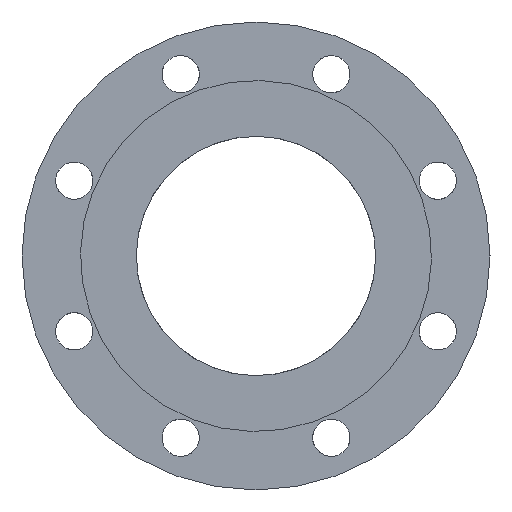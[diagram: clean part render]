
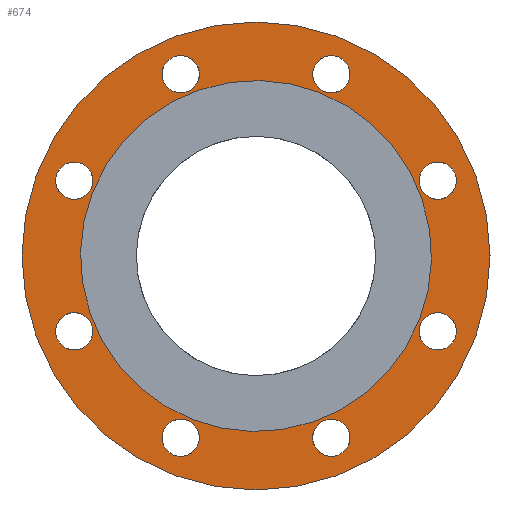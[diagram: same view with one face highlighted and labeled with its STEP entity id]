
A CAD part, front view. The second image highlights one B-rep face of the part: STEP entity #674.
In plain terms, the highlighted planar face has unit normal (0, -1, 0).
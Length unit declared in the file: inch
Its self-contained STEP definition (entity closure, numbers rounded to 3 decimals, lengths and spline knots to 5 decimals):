
#23=PLANE('',#762);
#76=FACE_BOUND('',#227,.T.);
#77=FACE_BOUND('',#228,.T.);
#78=FACE_BOUND('',#229,.T.);
#79=FACE_BOUND('',#230,.T.);
#80=FACE_BOUND('',#231,.T.);
#81=FACE_BOUND('',#232,.T.);
#82=FACE_BOUND('',#233,.T.);
#83=FACE_BOUND('',#234,.T.);
#84=FACE_BOUND('',#235,.T.);
#135=FACE_OUTER_BOUND('',#226,.T.);
#226=EDGE_LOOP('',(#531));
#227=EDGE_LOOP('',(#532));
#228=EDGE_LOOP('',(#533));
#229=EDGE_LOOP('',(#534));
#230=EDGE_LOOP('',(#535));
#231=EDGE_LOOP('',(#536));
#232=EDGE_LOOP('',(#537));
#233=EDGE_LOOP('',(#538));
#234=EDGE_LOOP('',(#539));
#235=EDGE_LOOP('',(#540));
#304=CIRCLE('',#756,4.125);
#307=CIRCLE('',#763,5.5);
#308=CIRCLE('',#764,0.4375);
#309=CIRCLE('',#765,0.4375);
#310=CIRCLE('',#766,0.4375);
#311=CIRCLE('',#767,0.4375);
#312=CIRCLE('',#768,0.4375);
#313=CIRCLE('',#769,0.4375);
#314=CIRCLE('',#770,0.4375);
#315=CIRCLE('',#771,0.4375);
#365=VERTEX_POINT('',#1111);
#368=VERTEX_POINT('',#1121);
#369=VERTEX_POINT('',#1123);
#370=VERTEX_POINT('',#1125);
#371=VERTEX_POINT('',#1127);
#372=VERTEX_POINT('',#1129);
#373=VERTEX_POINT('',#1131);
#374=VERTEX_POINT('',#1133);
#375=VERTEX_POINT('',#1135);
#376=VERTEX_POINT('',#1137);
#426=EDGE_CURVE('',#365,#365,#304,.T.);
#429=EDGE_CURVE('',#368,#368,#307,.T.);
#430=EDGE_CURVE('',#369,#369,#308,.T.);
#431=EDGE_CURVE('',#370,#370,#309,.T.);
#432=EDGE_CURVE('',#371,#371,#310,.T.);
#433=EDGE_CURVE('',#372,#372,#311,.T.);
#434=EDGE_CURVE('',#373,#373,#312,.T.);
#435=EDGE_CURVE('',#374,#374,#313,.T.);
#436=EDGE_CURVE('',#375,#375,#314,.T.);
#437=EDGE_CURVE('',#376,#376,#315,.T.);
#531=ORIENTED_EDGE('',*,*,#429,.F.);
#532=ORIENTED_EDGE('',*,*,#426,.T.);
#533=ORIENTED_EDGE('',*,*,#430,.T.);
#534=ORIENTED_EDGE('',*,*,#431,.T.);
#535=ORIENTED_EDGE('',*,*,#432,.T.);
#536=ORIENTED_EDGE('',*,*,#433,.T.);
#537=ORIENTED_EDGE('',*,*,#434,.T.);
#538=ORIENTED_EDGE('',*,*,#435,.T.);
#539=ORIENTED_EDGE('',*,*,#436,.T.);
#540=ORIENTED_EDGE('',*,*,#437,.T.);
#674=ADVANCED_FACE('',(#135,#76,#77,#78,#79,#80,#81,#82,#83,#84),#23,.F.);
#756=AXIS2_PLACEMENT_3D('',#1112,#931,#932);
#762=AXIS2_PLACEMENT_3D('',#1120,#943,#944);
#763=AXIS2_PLACEMENT_3D('',#1122,#945,#946);
#764=AXIS2_PLACEMENT_3D('',#1124,#947,#948);
#765=AXIS2_PLACEMENT_3D('',#1126,#949,#950);
#766=AXIS2_PLACEMENT_3D('',#1128,#951,#952);
#767=AXIS2_PLACEMENT_3D('',#1130,#953,#954);
#768=AXIS2_PLACEMENT_3D('',#1132,#955,#956);
#769=AXIS2_PLACEMENT_3D('',#1134,#957,#958);
#770=AXIS2_PLACEMENT_3D('',#1136,#959,#960);
#771=AXIS2_PLACEMENT_3D('',#1138,#961,#962);
#931=DIRECTION('center_axis',(0.,1.,0.));
#932=DIRECTION('ref_axis',(-0.48,0.,0.877));
#943=DIRECTION('center_axis',(0.,1.,0.));
#944=DIRECTION('ref_axis',(0.,0.,-1.));
#945=DIRECTION('center_axis',(0.,1.,0.));
#946=DIRECTION('ref_axis',(-1.,0.,0.));
#947=DIRECTION('center_axis',(0.,1.,0.));
#948=DIRECTION('ref_axis',(-1.,0.,0.));
#949=DIRECTION('center_axis',(0.,1.,0.));
#950=DIRECTION('ref_axis',(-0.707,0.,-0.707));
#951=DIRECTION('center_axis',(0.,1.,0.));
#952=DIRECTION('ref_axis',(0.,0.,-1.));
#953=DIRECTION('center_axis',(0.,1.,0.));
#954=DIRECTION('ref_axis',(0.707,0.,-0.707));
#955=DIRECTION('center_axis',(0.,1.,0.));
#956=DIRECTION('ref_axis',(1.,0.,0.));
#957=DIRECTION('center_axis',(0.,1.,0.));
#958=DIRECTION('ref_axis',(0.707,0.,0.707));
#959=DIRECTION('center_axis',(0.,1.,0.));
#960=DIRECTION('ref_axis',(0.,0.,1.));
#961=DIRECTION('center_axis',(0.,1.,0.));
#962=DIRECTION('ref_axis',(-0.707,0.,0.707));
#1111=CARTESIAN_POINT('',(1.98015,0.5,-3.61865));
#1112=CARTESIAN_POINT('Origin',(0.,0.5,
0.));
#1120=CARTESIAN_POINT('Origin',(0.,0.5,0.));
#1121=CARTESIAN_POINT('',(5.5,0.5,0.));
#1122=CARTESIAN_POINT('Origin',(0.,0.5,0.));
#1123=CARTESIAN_POINT('',(-2.20741,0.5,4.27294));
#1124=CARTESIAN_POINT('Origin',(-1.76991,0.5,4.27294));
#1125=CARTESIAN_POINT('',(-4.5823,0.5,1.46055));
#1126=CARTESIAN_POINT('Origin',(-4.27294,0.5,1.76991));
#1127=CARTESIAN_POINT('',(-4.27294,0.5,-2.20741));
#1128=CARTESIAN_POINT('Origin',(-4.27294,0.5,-1.76991));
#1129=CARTESIAN_POINT('',(-1.46055,0.5,-4.5823));
#1130=CARTESIAN_POINT('Origin',(-1.76991,0.5,-4.27294));
#1131=CARTESIAN_POINT('',(2.20741,0.5,-4.27294));
#1132=CARTESIAN_POINT('Origin',(1.76991,0.5,-4.27294));
#1133=CARTESIAN_POINT('',(4.5823,0.5,-1.46055));
#1134=CARTESIAN_POINT('Origin',(4.27294,0.5,-1.76991));
#1135=CARTESIAN_POINT('',(4.27294,0.5,2.20741));
#1136=CARTESIAN_POINT('Origin',(4.27294,0.5,1.76991));
#1137=CARTESIAN_POINT('',(1.46055,0.5,4.5823));
#1138=CARTESIAN_POINT('Origin',(1.76991,0.5,4.27294));
